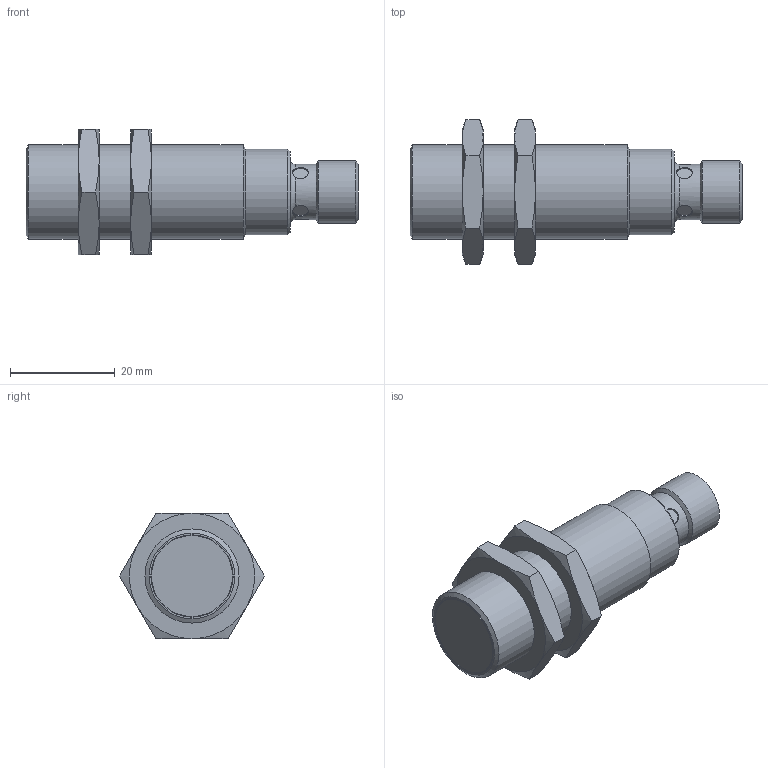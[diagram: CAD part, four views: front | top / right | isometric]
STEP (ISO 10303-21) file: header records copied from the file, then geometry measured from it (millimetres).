
FILE_DESCRIPTION(/* description */ (''),/* implementation_level */ '2;1');
FILE_NAME(/* name */ '3DCAD_IS_218MM_xNx_12E_S12.stp',/* time_stamp */ '2021-10-13T13:59:04+02:00',/* author */ ('CC2'),/* organization */ ('Leuze electronic'),/* preprocessor_version */ 'ST-DEVELOPER v16',/* originating_system */ 'SIEMENS PLM Software NX 11.0',/* authorisation */ '');
FILE_SCHEMA (('AUTOMOTIVE_DESIGN { 1 0 10303 214 3 1 1 1 }'));
Length unit declared in the file: millimetre
Products named in the file (1): 19-103369_00_1-3DCAD_IS_218MM_xNx_12E_S12
Bounding box: 63.5 x 27.71 x 24 mm (x, y, z)
Volume: 15219.9 mm3; surface area: 5253.1 mm2
Topology: 1 solids, 1 shells, 102 faces, 244 edges, 151 vertices
Faces by surface type: plane 45, cone 31, cylinder 20, sphere 5, torus 1
Full cylindrical faces by diameter (mm): 1 x4, 2.4 x1, 3 x4, 8.5 x1, 10.55 x1, 12 x1, 15.5 x1, 15.731 x1, 16.4 x1, 18 x3
Entity records: 2984 total; most frequent: CARTESIAN_POINT 847, DIRECTION 417, ORIENTED_EDGE 388, EDGE_CURVE 194, AXIS2_PLACEMENT_3D 177, EDGE_LOOP 140, VERTEX_POINT 133, ADVANCED_FACE 102
